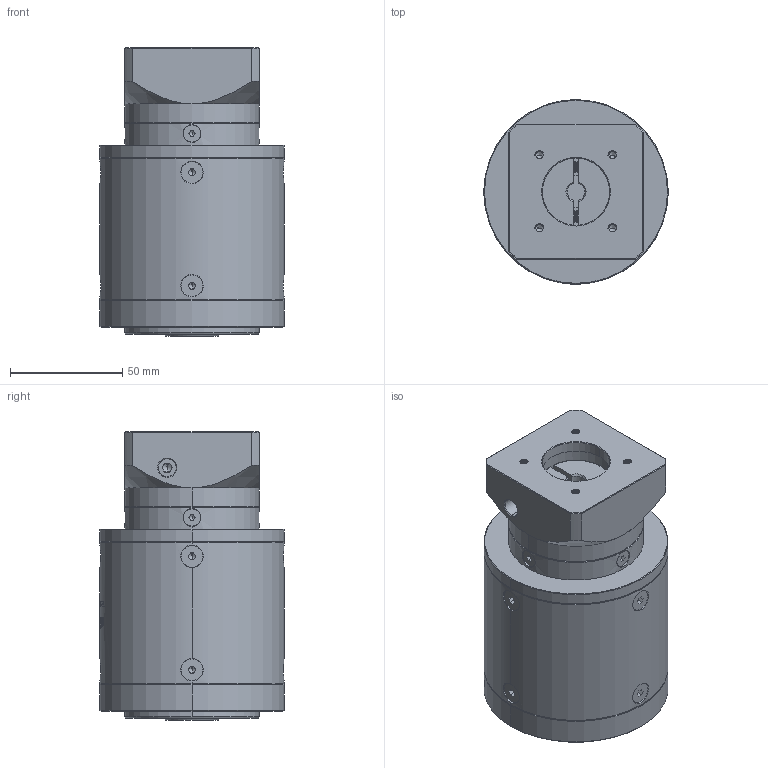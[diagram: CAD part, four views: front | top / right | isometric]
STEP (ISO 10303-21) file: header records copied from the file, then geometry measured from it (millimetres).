
FILE_DESCRIPTION (( 'STEP AP214' ), '1' );
FILE_NAME ('ZE80-K15-L3-8-30-46-M4.step', '2022-05-08T06:09:04', ( '' ), ( 'Microsoft' ), 'SwSTEP 2.0', 'SolidWorks 2016', '' );
FILE_SCHEMA (( 'AUTOMOTIVE_DESIGN' ));
Length unit declared in the file: millimetre
Products named in the file (1): ZE80-K15-L3-8-30-46-M4
Bounding box: 82 x 82 x 128.5 mm (x, y, z)
Volume: 536513.7 mm3; surface area: 68440.6 mm2
Topology: 18 solids, 18 shells, 2038 faces, 5372 edges, 3424 vertices
Faces by surface type: plane 936, cylinder 458, bspline 330, cone 300, torus 14
Entity records: 109934 total; most frequent: CARTESIAN_POINT 41049, ORIENTED_EDGE 10656, DIRECTION 8332, EDGE_CURVE 5328, VERTEX_POINT 3424, LINE 2856, VECTOR 2856, AXIS2_PLACEMENT_3D 2738
